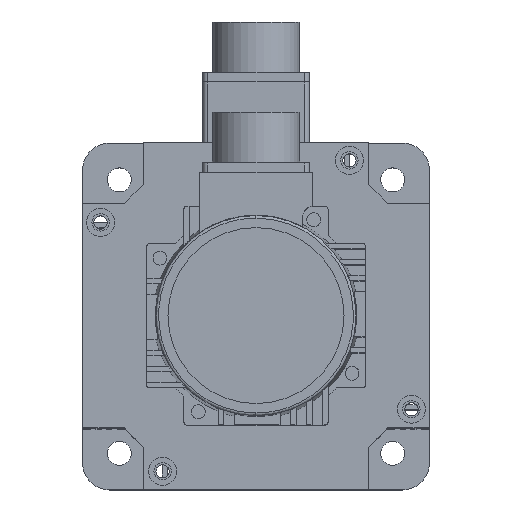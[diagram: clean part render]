
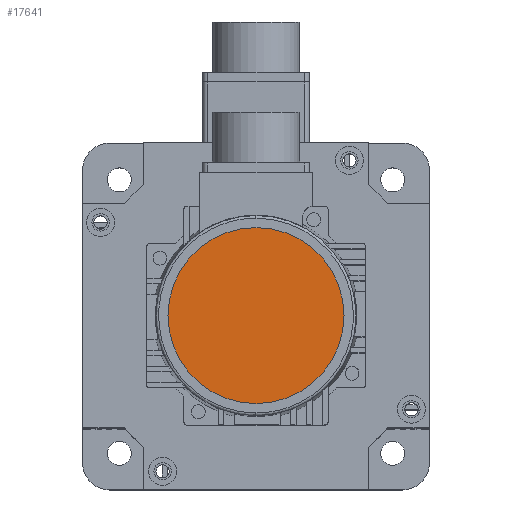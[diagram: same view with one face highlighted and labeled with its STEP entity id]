
A CAD part, top view. The second image highlights one B-rep face of the part: STEP entity #17641.
In plain terms, the highlighted planar face has unit normal (0, 0, 1).
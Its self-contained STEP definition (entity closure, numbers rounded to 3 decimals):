
#705 = PLANE ( 'NONE',  #40826 ) ;
#5635 = CIRCLE ( 'NONE', #11878, 33. ) ;
#6586 = CARTESIAN_POINT ( 'NONE',  ( -60.288, -2.493, 137.25 ) ) ;
#8110 = CARTESIAN_POINT ( 'NONE',  ( -27.288, -2.493, 137.25 ) ) ;
#11878 = AXIS2_PLACEMENT_3D ( 'NONE', #12385, #42690, #22358 ) ;
#12385 = CARTESIAN_POINT ( 'NONE',  ( -60.288, -2.493, 137.25 ) ) ;
#15568 = EDGE_CURVE ( 'NONE', #28668, #24561, #5635, .T. ) ;
#15737 = CARTESIAN_POINT ( 'NONE',  ( -93.288, -2.493, 137.25 ) ) ;
#17641 = ADVANCED_FACE ( 'NONE', ( #32345 ), #705, .T. ) ;
#20999 = DIRECTION ( 'NONE',  ( 0., 0., 1. ) ) ;
#22358 = DIRECTION ( 'NONE',  ( 1., 0., 0. ) ) ;
#23356 = EDGE_LOOP ( 'NONE', ( #38548, #26662 ) ) ;
#24561 = VERTEX_POINT ( 'NONE', #15737 ) ;
#26662 = ORIENTED_EDGE ( 'NONE', *, *, #43012, .T. ) ;
#26995 = DIRECTION ( 'NONE',  ( 0., 0., 1. ) ) ;
#28668 = VERTEX_POINT ( 'NONE', #8110 ) ;
#30248 = DIRECTION ( 'NONE',  ( 1., 0., 0. ) ) ;
#31068 = CARTESIAN_POINT ( 'NONE',  ( -60.288, -2.493, 137.25 ) ) ;
#32345 = FACE_OUTER_BOUND ( 'NONE', #23356, .T. ) ;
#38548 = ORIENTED_EDGE ( 'NONE', *, *, #15568, .T. ) ;
#39226 = CIRCLE ( 'NONE', #41273, 33. ) ;
#40826 = AXIS2_PLACEMENT_3D ( 'NONE', #31068, #20999, #41001 ) ;
#41001 = DIRECTION ( 'NONE',  ( 1., 0., 0. ) ) ;
#41273 = AXIS2_PLACEMENT_3D ( 'NONE', #6586, #26995, #30248 ) ;
#42690 = DIRECTION ( 'NONE',  ( 0., 0., 1. ) ) ;
#43012 = EDGE_CURVE ( 'NONE', #24561, #28668, #39226, .T. ) ;
